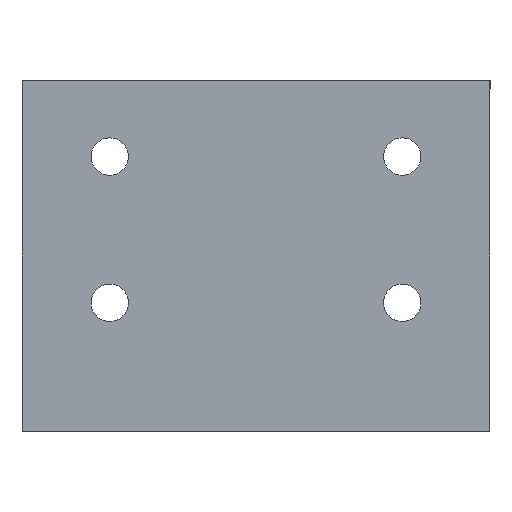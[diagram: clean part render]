
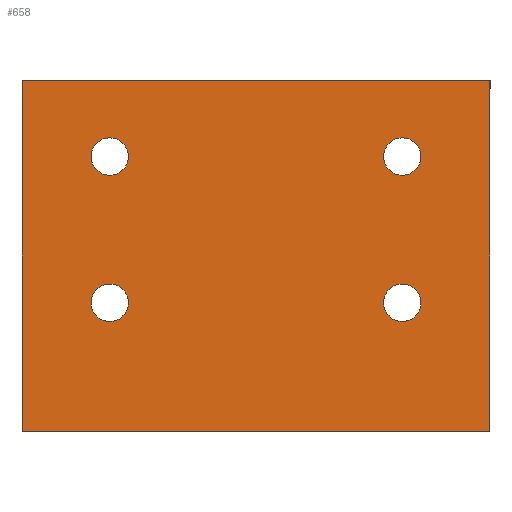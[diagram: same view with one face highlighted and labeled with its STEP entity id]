
A CAD part, front view. The second image highlights one B-rep face of the part: STEP entity #658.
In plain terms, the highlighted planar face has unit normal (0, -1, 0).
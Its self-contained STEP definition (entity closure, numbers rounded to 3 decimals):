
#124 = EDGE_CURVE ( 'NONE', #125, #126, #883, .T. ) ;
#125 = VERTEX_POINT ( 'NONE', #879 ) ;
#126 = VERTEX_POINT ( 'NONE', #878 ) ;
#132 = EDGE_CURVE ( 'NONE', #133, #134, #937, .T. ) ;
#133 = VERTEX_POINT ( 'NONE', #932 ) ;
#134 = VERTEX_POINT ( 'NONE', #931 ) ;
#146 = EDGE_CURVE ( 'NONE', #196, #197, #908, .T. ) ;
#192 = EDGE_CURVE ( 'NONE', #193, #194, #1007, .T. ) ;
#193 = VERTEX_POINT ( 'NONE', #1067 ) ;
#194 = VERTEX_POINT ( 'NONE', #1066 ) ;
#196 = VERTEX_POINT ( 'NONE', #1065 ) ;
#197 = VERTEX_POINT ( 'NONE', #1064 ) ;
#561 = EDGE_CURVE ( 'NONE', #562, #563, #1696, .T. ) ;
#562 = VERTEX_POINT ( 'NONE', #1688 ) ;
#563 = VERTEX_POINT ( 'NONE', #1687 ) ;
#568 = EDGE_CURVE ( 'NONE', #126, #125, #1684, .T. ) ;
#575 = EDGE_CURVE ( 'NONE', #197, #196, #1734, .T. ) ;
#586 = EDGE_CURVE ( 'NONE', #194, #193, #1718, .T. ) ;
#606 = VERTEX_POINT ( 'NONE', #1764 ) ;
#608 = EDGE_CURVE ( 'NONE', #563, #606, #1763, .T. ) ;
#635 = EDGE_CURVE ( 'NONE', #134, #133, #1792, .T. ) ;
#639 = ORIENTED_EDGE ( 'NONE', *, *, #561, .T. ) ;
#640 = ORIENTED_EDGE ( 'NONE', *, *, #608, .T. ) ;
#641 = EDGE_LOOP ( 'NONE', ( #642, #643 ) ) ;
#642 = ORIENTED_EDGE ( 'NONE', *, *, #635, .T. ) ;
#643 = ORIENTED_EDGE ( 'NONE', *, *, #132, .T. ) ;
#644 = EDGE_LOOP ( 'NONE', ( #645, #646 ) ) ;
#645 = ORIENTED_EDGE ( 'NONE', *, *, #575, .T. ) ;
#646 = ORIENTED_EDGE ( 'NONE', *, *, #146, .T. ) ;
#647 = EDGE_LOOP ( 'NONE', ( #648, #702 ) ) ;
#648 = ORIENTED_EDGE ( 'NONE', *, *, #568, .T. ) ;
#655 = EDGE_CURVE ( 'NONE', #672, #562, #1782, .T. ) ;
#658 = ADVANCED_FACE ( 'NONE', ( #1778, #1777, #1776, #1775, #1774 ), #1773, .T. ) ;
#659 = EDGE_LOOP ( 'NONE', ( #707, #708, #639, #640 ) ) ;
#672 = VERTEX_POINT ( 'NONE', #1816 ) ;
#674 = EDGE_CURVE ( 'NONE', #606, #672, #1815, .T. ) ;
#702 = ORIENTED_EDGE ( 'NONE', *, *, #124, .T. ) ;
#703 = EDGE_LOOP ( 'NONE', ( #704, #705 ) ) ;
#704 = ORIENTED_EDGE ( 'NONE', *, *, #586, .T. ) ;
#705 = ORIENTED_EDGE ( 'NONE', *, *, #192, .T. ) ;
#707 = ORIENTED_EDGE ( 'NONE', *, *, #674, .T. ) ;
#708 = ORIENTED_EDGE ( 'NONE', *, *, #655, .T. ) ;
#878 = CARTESIAN_POINT ( 'NONE',  ( 180.182, 163.82, 259.029 ) ) ;
#879 = CARTESIAN_POINT ( 'NONE',  ( 180.182, 163.82, 252.629 ) ) ;
#880 = DIRECTION ( 'NONE',  ( 0., 0., 1. ) ) ;
#881 = DIRECTION ( 'NONE',  ( 0., 1., 0. ) ) ;
#882 = AXIS2_PLACEMENT_3D ( 'NONE', #889, #881, #880 ) ;
#883 = CIRCLE ( 'NONE', #882, 3.2 ) ;
#889 = CARTESIAN_POINT ( 'NONE',  ( 180.182, 163.82, 255.829 ) ) ;
#908 = CIRCLE ( 'NONE', #971, 3.2 ) ;
#914 = CARTESIAN_POINT ( 'NONE',  ( 180.182, 163.82, 230.829 ) ) ;
#931 = CARTESIAN_POINT ( 'NONE',  ( 230.182, 163.82, 259.029 ) ) ;
#932 = CARTESIAN_POINT ( 'NONE',  ( 230.182, 163.82, 252.629 ) ) ;
#933 = DIRECTION ( 'NONE',  ( 0., 0., 1. ) ) ;
#934 = DIRECTION ( 'NONE',  ( 0., 1., 0. ) ) ;
#935 = CARTESIAN_POINT ( 'NONE',  ( 230.182, 163.82, 255.829 ) ) ;
#936 = AXIS2_PLACEMENT_3D ( 'NONE', #935, #934, #933 ) ;
#937 = CIRCLE ( 'NONE', #936, 3.2 ) ;
#969 = DIRECTION ( 'NONE',  ( 0., 0., 1. ) ) ;
#970 = DIRECTION ( 'NONE',  ( 0., 1., 0. ) ) ;
#971 = AXIS2_PLACEMENT_3D ( 'NONE', #914, #970, #969 ) ;
#1005 = DIRECTION ( 'NONE',  ( 0., 1., 0. ) ) ;
#1006 = AXIS2_PLACEMENT_3D ( 'NONE', #1012, #1005, #1068 ) ;
#1007 = CIRCLE ( 'NONE', #1006, 3.2 ) ;
#1012 = CARTESIAN_POINT ( 'NONE',  ( 230.182, 163.82, 230.829 ) ) ;
#1064 = CARTESIAN_POINT ( 'NONE',  ( 180.182, 163.82, 234.029 ) ) ;
#1065 = CARTESIAN_POINT ( 'NONE',  ( 180.182, 163.82, 227.629 ) ) ;
#1066 = CARTESIAN_POINT ( 'NONE',  ( 230.182, 163.82, 234.029 ) ) ;
#1067 = CARTESIAN_POINT ( 'NONE',  ( 230.182, 163.82, 227.629 ) ) ;
#1068 = DIRECTION ( 'NONE',  ( 0., 0., 1. ) ) ;
#1676 = DIRECTION ( 'NONE',  ( 0., 0., 1. ) ) ;
#1677 = DIRECTION ( 'NONE',  ( 0., 1., 0. ) ) ;
#1678 = CARTESIAN_POINT ( 'NONE',  ( 180.182, 163.82, 255.829 ) ) ;
#1679 = AXIS2_PLACEMENT_3D ( 'NONE', #1678, #1677, #1676 ) ;
#1684 = CIRCLE ( 'NONE', #1679, 3.2 ) ;
#1687 = CARTESIAN_POINT ( 'NONE',  ( 165.182, 163.82, 268.829 ) ) ;
#1688 = CARTESIAN_POINT ( 'NONE',  ( 245.182, 163.82, 268.829 ) ) ;
#1689 = DIRECTION ( 'NONE',  ( -1., 0., 0. ) ) ;
#1690 = VECTOR ( 'NONE', #1689, 1000. ) ;
#1691 = CARTESIAN_POINT ( 'NONE',  ( 245.182, 163.82, 268.829 ) ) ;
#1696 = LINE ( 'NONE', #1691, #1690 ) ;
#1715 = DIRECTION ( 'NONE',  ( 0., 0., 1. ) ) ;
#1716 = DIRECTION ( 'NONE',  ( 0., 1., 0. ) ) ;
#1717 = AXIS2_PLACEMENT_3D ( 'NONE', #1723, #1716, #1715 ) ;
#1718 = CIRCLE ( 'NONE', #1717, 3.2 ) ;
#1723 = CARTESIAN_POINT ( 'NONE',  ( 230.182, 163.82, 230.829 ) ) ;
#1730 = DIRECTION ( 'NONE',  ( 0., 0., 1. ) ) ;
#1731 = DIRECTION ( 'NONE',  ( 0., 1., 0. ) ) ;
#1732 = CARTESIAN_POINT ( 'NONE',  ( 180.182, 163.82, 230.829 ) ) ;
#1733 = AXIS2_PLACEMENT_3D ( 'NONE', #1732, #1731, #1730 ) ;
#1734 = CIRCLE ( 'NONE', #1733, 3.2 ) ;
#1760 = DIRECTION ( 'NONE',  ( 0., 0., -1. ) ) ;
#1761 = VECTOR ( 'NONE', #1760, 1000. ) ;
#1762 = CARTESIAN_POINT ( 'NONE',  ( 165.182, 163.82, 208.829 ) ) ;
#1763 = LINE ( 'NONE', #1762, #1761 ) ;
#1764 = CARTESIAN_POINT ( 'NONE',  ( 165.182, 163.82, 208.829 ) ) ;
#1769 = DIRECTION ( 'NONE',  ( 0., 0., -1. ) ) ;
#1770 = DIRECTION ( 'NONE',  ( 0., -1., 0. ) ) ;
#1771 = CARTESIAN_POINT ( 'NONE',  ( 245.182, 163.82, 208.829 ) ) ;
#1772 = AXIS2_PLACEMENT_3D ( 'NONE', #1771, #1770, #1769 ) ;
#1773 = PLANE ( 'NONE',  #1772 ) ;
#1774 = FACE_BOUND ( 'NONE', #703, .T. ) ;
#1775 = FACE_BOUND ( 'NONE', #647, .T. ) ;
#1776 = FACE_BOUND ( 'NONE', #644, .T. ) ;
#1777 = FACE_BOUND ( 'NONE', #641, .T. ) ;
#1778 = FACE_OUTER_BOUND ( 'NONE', #659, .T. ) ;
#1779 = DIRECTION ( 'NONE',  ( 0., 0., 1. ) ) ;
#1780 = VECTOR ( 'NONE', #1779, 1000. ) ;
#1781 = CARTESIAN_POINT ( 'NONE',  ( 245.182, 163.82, 208.829 ) ) ;
#1782 = LINE ( 'NONE', #1781, #1780 ) ;
#1789 = DIRECTION ( 'NONE',  ( 0., 0., 1. ) ) ;
#1790 = DIRECTION ( 'NONE',  ( 0., 1., 0. ) ) ;
#1791 = AXIS2_PLACEMENT_3D ( 'NONE', #1798, #1790, #1789 ) ;
#1792 = CIRCLE ( 'NONE', #1791, 3.2 ) ;
#1798 = CARTESIAN_POINT ( 'NONE',  ( 230.182, 163.82, 255.829 ) ) ;
#1812 = DIRECTION ( 'NONE',  ( 1., 0., 0. ) ) ;
#1813 = VECTOR ( 'NONE', #1812, 1000. ) ;
#1814 = CARTESIAN_POINT ( 'NONE',  ( 245.182, 163.82, 208.829 ) ) ;
#1815 = LINE ( 'NONE', #1814, #1813 ) ;
#1816 = CARTESIAN_POINT ( 'NONE',  ( 245.182, 163.82, 208.829 ) ) ;
